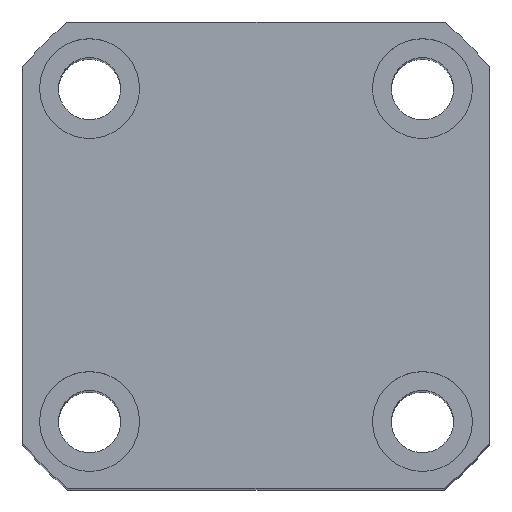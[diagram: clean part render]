
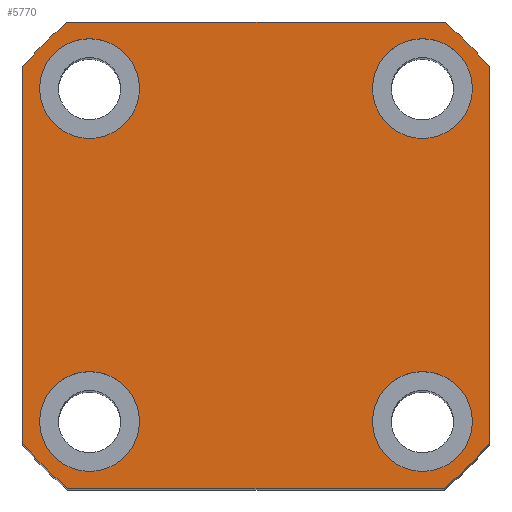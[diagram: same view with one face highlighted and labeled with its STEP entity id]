
A CAD part, top view. The second image highlights one B-rep face of the part: STEP entity #5770.
In plain terms, the highlighted planar face has unit normal (0, 0, 1).
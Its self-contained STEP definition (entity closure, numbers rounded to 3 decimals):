
#35 = CARTESIAN_POINT ( 'NONE',  ( 15., -14.998, 98. ) ) ;
#160 = CIRCLE ( 'NONE', #576, 4.5 ) ;
#181 = ORIENTED_EDGE ( 'NONE', *, *, #1222, .T. ) ;
#190 = DIRECTION ( 'NONE',  ( 1., 0., 0. ) ) ;
#230 = EDGE_CURVE ( 'NONE', #8964, #4970, #3603, .T. ) ;
#327 = CIRCLE ( 'NONE', #8506, 4.5 ) ;
#343 = CARTESIAN_POINT ( 'NONE',  ( 0., 0., 98. ) ) ;
#390 = DIRECTION ( 'NONE',  ( 1., 0., 0. ) ) ;
#442 = CARTESIAN_POINT ( 'NONE',  ( -15., -14.998, 98. ) ) ;
#494 = EDGE_CURVE ( 'NONE', #9784, #7355, #9135, .T. ) ;
#519 = AXIS2_PLACEMENT_3D ( 'NONE', #2791, #8509, #3601 ) ;
#574 = DIRECTION ( 'NONE',  ( 0., 0., 1. ) ) ;
#576 = AXIS2_PLACEMENT_3D ( 'NONE', #5635, #741, #6473 ) ;
#629 = VERTEX_POINT ( 'NONE', #9575 ) ;
#741 = DIRECTION ( 'NONE',  ( 0., 0., 1. ) ) ;
#846 = DIRECTION ( 'NONE',  ( 1., 0., 0. ) ) ;
#973 = CARTESIAN_POINT ( 'NONE',  ( -21., -16.971, 98. ) ) ;
#1146 = DIRECTION ( 'NONE',  ( 1., 0., 0. ) ) ;
#1222 = EDGE_CURVE ( 'NONE', #629, #3835, #8209, .T. ) ;
#1232 = FACE_BOUND ( 'NONE', #2481, .T. ) ;
#1251 = DIRECTION ( 'NONE',  ( 1., 0., 0. ) ) ;
#1255 = DIRECTION ( 'NONE',  ( 1., 0., 0. ) ) ;
#1437 = AXIS2_PLACEMENT_3D ( 'NONE', #7634, #2943, #3096 ) ;
#1519 = CIRCLE ( 'NONE', #5080, 4.5 ) ;
#1683 = PLANE ( 'NONE',  #8486 ) ;
#1729 = AXIS2_PLACEMENT_3D ( 'NONE', #9993, #5083, #190 ) ;
#1760 = EDGE_CURVE ( 'NONE', #8078, #9907, #1519, .T. ) ;
#1767 = EDGE_CURVE ( 'NONE', #5387, #9784, #3962, .T. ) ;
#1788 = ORIENTED_EDGE ( 'NONE', *, *, #4553, .F. ) ;
#1866 = CIRCLE ( 'NONE', #7183, 4.5 ) ;
#1873 = DIRECTION ( 'NONE',  ( 1., 0., 0. ) ) ;
#1975 = EDGE_CURVE ( 'NONE', #4208, #629, #6048, .T. ) ;
#2024 = CARTESIAN_POINT ( 'NONE',  ( -21., -21., 98. ) ) ;
#2074 = CARTESIAN_POINT ( 'NONE',  ( -10.5, 15.002, 98. ) ) ;
#2150 = AXIS2_PLACEMENT_3D ( 'NONE', #4775, #10528, #5601 ) ;
#2293 = VERTEX_POINT ( 'NONE', #3042 ) ;
#2327 = EDGE_CURVE ( 'NONE', #3835, #5387, #7456, .T. ) ;
#2481 = EDGE_LOOP ( 'NONE', ( #10104, #6181 ) ) ;
#2517 = DIRECTION ( 'NONE',  ( 0., 0., 1. ) ) ;
#2530 = DIRECTION ( 'NONE',  ( 0., 0., 1. ) ) ;
#2611 = DIRECTION ( 'NONE',  ( 0., 1., 0. ) ) ;
#2616 = CARTESIAN_POINT ( 'NONE',  ( -16.971, -21., 98. ) ) ;
#2619 = EDGE_CURVE ( 'NONE', #3642, #2293, #160, .T. ) ;
#2723 = CARTESIAN_POINT ( 'NONE',  ( 21., 21., 98. ) ) ;
#2791 = CARTESIAN_POINT ( 'NONE',  ( -15., -14.998, 98. ) ) ;
#2943 = DIRECTION ( 'NONE',  ( 0., 0., 1. ) ) ;
#3041 = CARTESIAN_POINT ( 'NONE',  ( -16.971, 21., 98. ) ) ;
#3042 = CARTESIAN_POINT ( 'NONE',  ( 10.5, 15., 98. ) ) ;
#3081 = EDGE_LOOP ( 'NONE', ( #5334, #181, #7102, #5879, #9230, #4717, #4975, #6452 ) ) ;
#3096 = DIRECTION ( 'NONE',  ( 1., 0., 0. ) ) ;
#3392 = CARTESIAN_POINT ( 'NONE',  ( 10.5, -14.998, 98. ) ) ;
#3431 = CARTESIAN_POINT ( 'NONE',  ( 0., 0., 98. ) ) ;
#3460 = EDGE_LOOP ( 'NONE', ( #7940, #8230 ) ) ;
#3543 = DIRECTION ( 'NONE',  ( -1., 0., 0. ) ) ;
#3586 = EDGE_CURVE ( 'NONE', #5229, #4838, #4755, .T. ) ;
#3601 = DIRECTION ( 'NONE',  ( 1., 0., 0. ) ) ;
#3603 = LINE ( 'NONE', #2024, #5766 ) ;
#3642 = VERTEX_POINT ( 'NONE', #4412 ) ;
#3652 = CARTESIAN_POINT ( 'NONE',  ( -15., 15.002, 98. ) ) ;
#3744 = CARTESIAN_POINT ( 'NONE',  ( -10.5, -14.998, 98. ) ) ;
#3759 = CARTESIAN_POINT ( 'NONE',  ( 16.971, -21., 98. ) ) ;
#3796 = ORIENTED_EDGE ( 'NONE', *, *, #7226, .F. ) ;
#3835 = VERTEX_POINT ( 'NONE', #5420 ) ;
#3915 = CIRCLE ( 'NONE', #9193, 4.5 ) ;
#3962 = CIRCLE ( 'NONE', #5619, 27. ) ;
#4208 = VERTEX_POINT ( 'NONE', #7050 ) ;
#4354 = CARTESIAN_POINT ( 'NONE',  ( -21., 21., 98. ) ) ;
#4412 = CARTESIAN_POINT ( 'NONE',  ( 19.5, 15., 98. ) ) ;
#4423 = ORIENTED_EDGE ( 'NONE', *, *, #6203, .F. ) ;
#4475 = CARTESIAN_POINT ( 'NONE',  ( 19.5, -14.998, 98. ) ) ;
#4478 = DIRECTION ( 'NONE',  ( 1., 0., 0. ) ) ;
#4506 = VECTOR ( 'NONE', #9169, 1000. ) ;
#4553 = EDGE_CURVE ( 'NONE', #5729, #7553, #5283, .T. ) ;
#4717 = ORIENTED_EDGE ( 'NONE', *, *, #10215, .T. ) ;
#4755 = CIRCLE ( 'NONE', #519, 4.5 ) ;
#4775 = CARTESIAN_POINT ( 'NONE',  ( 0., 0., 98. ) ) ;
#4838 = VERTEX_POINT ( 'NONE', #5178 ) ;
#4970 = VERTEX_POINT ( 'NONE', #3759 ) ;
#4975 = ORIENTED_EDGE ( 'NONE', *, *, #230, .T. ) ;
#5080 = AXIS2_PLACEMENT_3D ( 'NONE', #5135, #8558, #1255 ) ;
#5083 = DIRECTION ( 'NONE',  ( 0., 0., 1. ) ) ;
#5135 = CARTESIAN_POINT ( 'NONE',  ( -15., 15.002, 98. ) ) ;
#5178 = CARTESIAN_POINT ( 'NONE',  ( -19.5, -14.998, 98. ) ) ;
#5229 = VERTEX_POINT ( 'NONE', #3744 ) ;
#5252 = EDGE_LOOP ( 'NONE', ( #3796, #1788 ) ) ;
#5283 = CIRCLE ( 'NONE', #1729, 4.5 ) ;
#5334 = ORIENTED_EDGE ( 'NONE', *, *, #1975, .T. ) ;
#5348 = FACE_BOUND ( 'NONE', #3460, .T. ) ;
#5387 = VERTEX_POINT ( 'NONE', #3041 ) ;
#5420 = CARTESIAN_POINT ( 'NONE',  ( 16.971, 21., 98. ) ) ;
#5601 = DIRECTION ( 'NONE',  ( 1., 0., 0. ) ) ;
#5616 = EDGE_LOOP ( 'NONE', ( #6513, #4423 ) ) ;
#5619 = AXIS2_PLACEMENT_3D ( 'NONE', #3431, #574, #390 ) ;
#5635 = CARTESIAN_POINT ( 'NONE',  ( 15., 15., 98. ) ) ;
#5729 = VERTEX_POINT ( 'NONE', #3392 ) ;
#5748 = DIRECTION ( 'NONE',  ( 0., 0., 1. ) ) ;
#5766 = VECTOR ( 'NONE', #1873, 1000. ) ;
#5770 = ADVANCED_FACE ( 'NONE', ( #1232, #5348, #9709, #7776, #7506 ), #1683, .T. ) ;
#5879 = ORIENTED_EDGE ( 'NONE', *, *, #1767, .T. ) ;
#6048 = LINE ( 'NONE', #2723, #10416 ) ;
#6056 = DIRECTION ( 'NONE',  ( 0., 0., 1. ) ) ;
#6165 = DIRECTION ( 'NONE',  ( 0., 0., 1. ) ) ;
#6181 = ORIENTED_EDGE ( 'NONE', *, *, #6531, .F. ) ;
#6203 = EDGE_CURVE ( 'NONE', #2293, #3642, #1866, .T. ) ;
#6431 = CARTESIAN_POINT ( 'NONE',  ( -21., 16.971, 98. ) ) ;
#6452 = ORIENTED_EDGE ( 'NONE', *, *, #8819, .T. ) ;
#6473 = DIRECTION ( 'NONE',  ( 1., 0., 0. ) ) ;
#6513 = ORIENTED_EDGE ( 'NONE', *, *, #2619, .F. ) ;
#6531 = EDGE_CURVE ( 'NONE', #9907, #8078, #8544, .T. ) ;
#6545 = EDGE_CURVE ( 'NONE', #4838, #5229, #3915, .T. ) ;
#6740 = CIRCLE ( 'NONE', #2150, 27. ) ;
#6990 = AXIS2_PLACEMENT_3D ( 'NONE', #3652, #9407, #4478 ) ;
#7050 = CARTESIAN_POINT ( 'NONE',  ( 21., -16.971, 98. ) ) ;
#7102 = ORIENTED_EDGE ( 'NONE', *, *, #2327, .T. ) ;
#7183 = AXIS2_PLACEMENT_3D ( 'NONE', #7406, #2517, #8237 ) ;
#7226 = EDGE_CURVE ( 'NONE', #7553, #5729, #327, .T. ) ;
#7355 = VERTEX_POINT ( 'NONE', #973 ) ;
#7389 = CARTESIAN_POINT ( 'NONE',  ( -19.5, 15.002, 98. ) ) ;
#7406 = CARTESIAN_POINT ( 'NONE',  ( 15., 15., 98. ) ) ;
#7420 = CARTESIAN_POINT ( 'NONE',  ( 0., 0., 98. ) ) ;
#7456 = LINE ( 'NONE', #4354, #9910 ) ;
#7506 = FACE_OUTER_BOUND ( 'NONE', #3081, .T. ) ;
#7553 = VERTEX_POINT ( 'NONE', #4475 ) ;
#7634 = CARTESIAN_POINT ( 'NONE',  ( 0., 0., 98. ) ) ;
#7776 = FACE_BOUND ( 'NONE', #5616, .T. ) ;
#7940 = ORIENTED_EDGE ( 'NONE', *, *, #3586, .F. ) ;
#8078 = VERTEX_POINT ( 'NONE', #2074 ) ;
#8209 = CIRCLE ( 'NONE', #1437, 27. ) ;
#8230 = ORIENTED_EDGE ( 'NONE', *, *, #6545, .F. ) ;
#8237 = DIRECTION ( 'NONE',  ( 1., 0., 0. ) ) ;
#8252 = DIRECTION ( 'NONE',  ( 1., 0., 0. ) ) ;
#8486 = AXIS2_PLACEMENT_3D ( 'NONE', #7420, #2530, #8252 ) ;
#8506 = AXIS2_PLACEMENT_3D ( 'NONE', #35, #5748, #846 ) ;
#8509 = DIRECTION ( 'NONE',  ( 0., 0., 1. ) ) ;
#8544 = CIRCLE ( 'NONE', #6990, 4.5 ) ;
#8558 = DIRECTION ( 'NONE',  ( 0., 0., 1. ) ) ;
#8819 = EDGE_CURVE ( 'NONE', #4970, #4208, #6740, .T. ) ;
#8964 = VERTEX_POINT ( 'NONE', #2616 ) ;
#9135 = LINE ( 'NONE', #9971, #4506 ) ;
#9169 = DIRECTION ( 'NONE',  ( 0., -1., 0. ) ) ;
#9193 = AXIS2_PLACEMENT_3D ( 'NONE', #442, #6165, #1251 ) ;
#9230 = ORIENTED_EDGE ( 'NONE', *, *, #494, .T. ) ;
#9407 = DIRECTION ( 'NONE',  ( 0., 0., 1. ) ) ;
#9575 = CARTESIAN_POINT ( 'NONE',  ( 21., 16.971, 98. ) ) ;
#9709 = FACE_BOUND ( 'NONE', #5252, .T. ) ;
#9784 = VERTEX_POINT ( 'NONE', #6431 ) ;
#9907 = VERTEX_POINT ( 'NONE', #7389 ) ;
#9910 = VECTOR ( 'NONE', #3543, 1000. ) ;
#9925 = AXIS2_PLACEMENT_3D ( 'NONE', #343, #6056, #1146 ) ;
#9939 = CIRCLE ( 'NONE', #9925, 27. ) ;
#9971 = CARTESIAN_POINT ( 'NONE',  ( -21., 21., 98. ) ) ;
#9993 = CARTESIAN_POINT ( 'NONE',  ( 15., -14.998, 98. ) ) ;
#10104 = ORIENTED_EDGE ( 'NONE', *, *, #1760, .F. ) ;
#10215 = EDGE_CURVE ( 'NONE', #7355, #8964, #9939, .T. ) ;
#10416 = VECTOR ( 'NONE', #2611, 1000. ) ;
#10528 = DIRECTION ( 'NONE',  ( 0., 0., 1. ) ) ;
